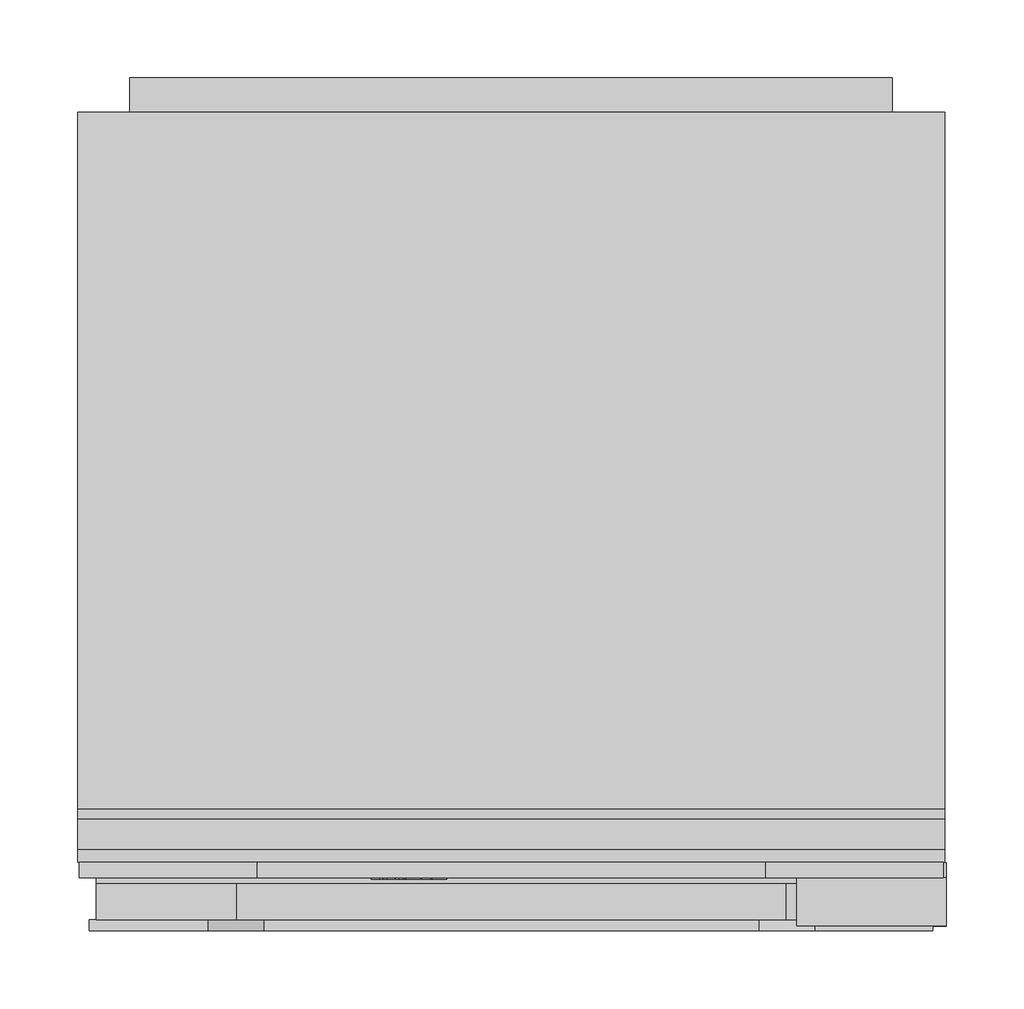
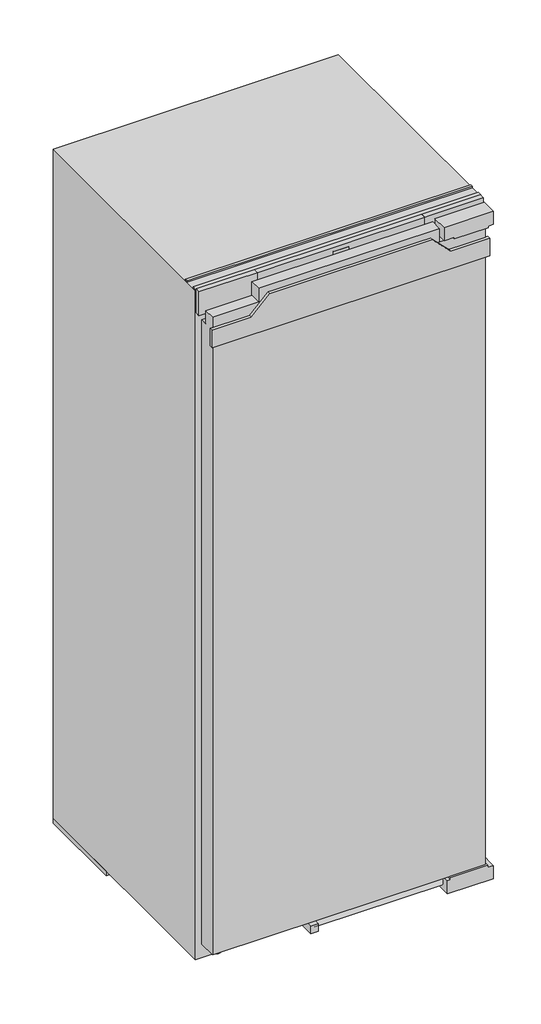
# Not in any storey: 1 proxy.
"""IFC4 building model written with IfcOpenShell, lengths in millimetres."""

from ifc_helpers import new_model, si_unit, origin, place, context, project, spatial, transform, mapped, element, save
from components import specialty_equipment_6a50e842

model = new_model("IFC4")

# Units and contexts
model_context = context("Model", 3, world=origin())
ifc_project = project(units=[si_unit("LENGTHUNIT", "METRE", prefix="MILLI")], contexts=[model_context])

# Site, building
site = spatial("IfcSite", under=ifc_project)
building = spatial("IfcBuilding", under=site)

# Proxy
placement = place(None, origin())
specialty_equipment_shape = specialty_equipment_6a50e842(model_context)
element("IfcBuildingElementProxy", 1, Name="12444110_EU1_K7447C : 36744700_EU1_12444110_K7447C", ObjectType="12444110_EU1_K7447C : 36744700_EU1_12444110_K7447C", at=placement, inside=building, context=model_context, shape_type="MappedRepresentation", body=[
    mapped(specialty_equipment_shape, transform((0.0, 0.0, 0.0), x_axis=(1.0, 0.0, 0.0), y_axis=(0.0, 1.0, 0.0), z_axis=(0.0, 0.0, 1.0))),
])

save(model, "model.ifc")
